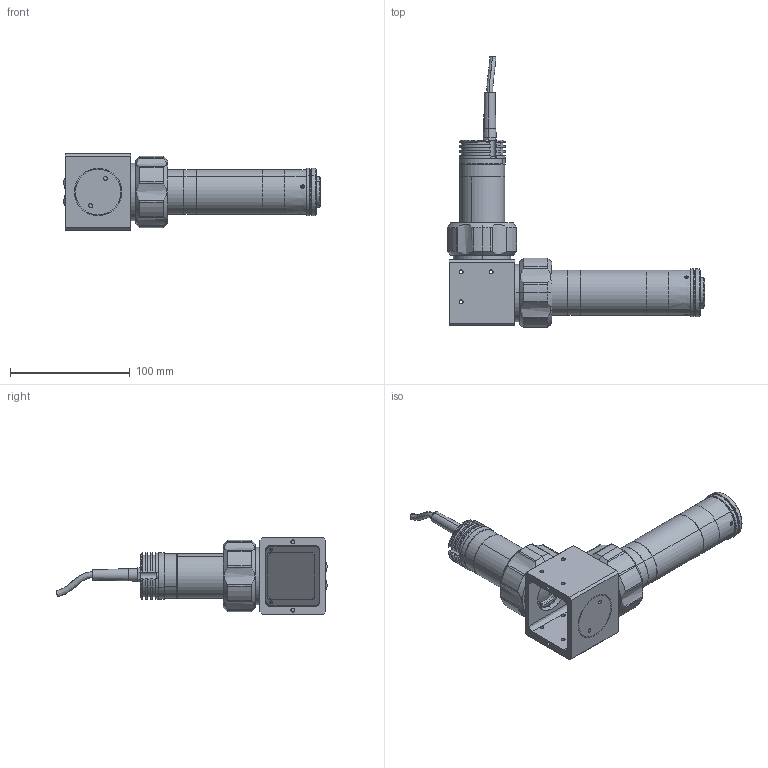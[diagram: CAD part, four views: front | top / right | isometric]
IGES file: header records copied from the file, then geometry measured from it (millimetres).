
Start section: SolidWorks IGES file using analytic representation for surfaces
Global section: file name: \\172.16.20.198\dati\R&D\01 archivio\DPXXXXX-X\DP71595-C_TCCXQ075-G.igs; native system: SolidWorks 2021; preprocessor: SolidWorks 2021; author: lrizzotto; date: 211126.122521; units: millimetre
Bounding box: 214.7 x 226.28 x 64 mm (x, y, z)
Surface area: 84255.1 mm2 (no closed solid volume)
Topology: 0 solids, 0 shells, 380 faces, 7849 edges, 7848 vertices
Faces by surface type: revolution 224, bspline 156
